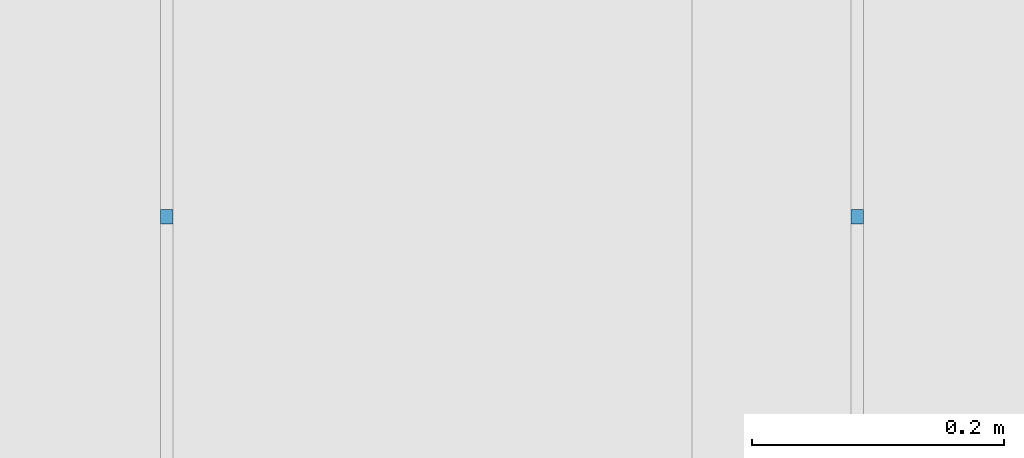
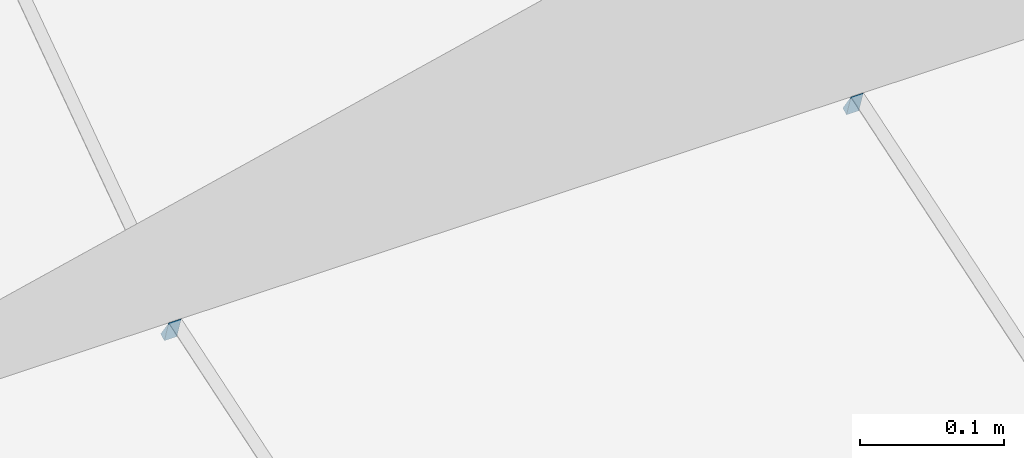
# One storey, part 377 of 583: 2 slabs.
"""IFC2X3 building model written with IfcOpenShell, lengths in metres."""

from ifc_helpers import new_model, entity, si_unit, converted_unit, derived_unit, money_unit, direction, frame, origin_with_axes, place, context, subcontext, project, spatial, faceted_brep, material, type_object, element, save


model = new_model("IFC2X3")

# Units and contexts
model_context = context("Model", 3, precision=1e-05, world=origin_with_axes(), true_north=direction((0.0, 1.0)))
body_context = subcontext(model_context, "Body", "Model", "MODEL_VIEW", scale=1.0)
ifc_project = project(units=[si_unit("LENGTHUNIT", "METRE"), si_unit("AREAUNIT", "SQUARE_METRE"), si_unit("VOLUMEUNIT", "CUBIC_METRE"), si_unit("ABSORBEDDOSEUNIT", "GRAY"), si_unit("AMOUNTOFSUBSTANCEUNIT", "MOLE"), si_unit("DOSEEQUIVALENTUNIT", "SIEVERT"), si_unit("ELECTRICCAPACITANCEUNIT", "FARAD"), si_unit("ELECTRICCHARGEUNIT", "COULOMB"), si_unit("ELECTRICCONDUCTANCEUNIT", "SIEMENS"), si_unit("ELECTRICCURRENTUNIT", "AMPERE"), si_unit("ELECTRICRESISTANCEUNIT", "OHM"), si_unit("ELECTRICVOLTAGEUNIT", "VOLT"), si_unit("ENERGYUNIT", "JOULE"), si_unit("FORCEUNIT", "NEWTON"), si_unit("FREQUENCYUNIT", "HERTZ"), si_unit("ILLUMINANCEUNIT", "LUX"), si_unit("INDUCTANCEUNIT", "HENRY"), si_unit("LUMINOUSFLUXUNIT", "LUMEN"), si_unit("LUMINOUSINTENSITYUNIT", "CANDELA"), si_unit("MAGNETICFLUXDENSITYUNIT", "TESLA"), si_unit("MAGNETICFLUXUNIT", "WEBER"), si_unit("MASSUNIT", "GRAM"), converted_unit("PLANEANGLEUNIT", "degree", entity("IfcReal", 0.0174532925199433), si_unit("PLANEANGLEUNIT", "RADIAN"), dimensions=[0, 0, 0, 0, 0, 0, 0]), si_unit("POWERUNIT", "WATT"), si_unit("PRESSUREUNIT", "PASCAL"), si_unit("RADIOACTIVITYUNIT", "BECQUEREL"), si_unit("SOLIDANGLEUNIT", "STERADIAN"), si_unit("THERMODYNAMICTEMPERATUREUNIT", "KELVIN"), si_unit("TIMEUNIT", "SECOND"), derived_unit("ACCELERATIONUNIT", [(si_unit("LENGTHUNIT", "METRE"), 1), (si_unit("TIMEUNIT", "SECOND"), -2)]), derived_unit("ANGULARVELOCITYUNIT", [(converted_unit("PLANEANGLEUNIT", "degree", entity("IfcReal", 0.0174532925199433), si_unit("PLANEANGLEUNIT", "RADIAN"), dimensions=[0, 0, 0, 0, 0, 0, 0]), 1), (si_unit("TIMEUNIT", "SECOND"), -1)]), derived_unit("CURVATUREUNIT", [(converted_unit("PLANEANGLEUNIT", "degree", entity("IfcReal", 0.0174532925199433), si_unit("PLANEANGLEUNIT", "RADIAN"), dimensions=[0, 0, 0, 0, 0, 0, 0]), 1), (si_unit("LENGTHUNIT", "METRE"), -1)]), derived_unit("DYNAMICVISCOSITYUNIT", [(si_unit("PRESSUREUNIT", "PASCAL"), 1), (si_unit("TIMEUNIT", "SECOND"), 1)]), derived_unit("HEATFLUXDENSITYUNIT", [(si_unit("POWERUNIT", "WATT"), 1), (si_unit("LENGTHUNIT", "METRE"), -2)]), derived_unit("HEATINGVALUEUNIT", [(si_unit("ENERGYUNIT", "JOULE"), 1), (si_unit("MASSUNIT", "GRAM"), -1)]), derived_unit("INTEGERCOUNTRATEUNIT", [(si_unit("TIMEUNIT", "SECOND"), -1)]), derived_unit("IONCONCENTRATIONUNIT", [(si_unit("MASSUNIT", "GRAM"), 1), (si_unit("VOLUMEUNIT", "CUBIC_METRE"), -1)]), derived_unit("ISOTHERMALMOISTURECAPACITYUNIT", [(si_unit("VOLUMEUNIT", "CUBIC_METRE"), 1), (si_unit("MASSUNIT", "GRAM"), -1)]), derived_unit("KINEMATICVISCOSITYUNIT", [(si_unit("AREAUNIT", "SQUARE_METRE"), 1), (si_unit("TIMEUNIT", "SECOND"), -1)]), derived_unit("LINEARFORCEUNIT", [(si_unit("FORCEUNIT", "NEWTON"), 1), (si_unit("LENGTHUNIT", "METRE"), -1)]), derived_unit("LINEARMOMENTUNIT", [(si_unit("FORCEUNIT", "NEWTON"), 1), (si_unit("LENGTHUNIT", "METRE"), -1)]), derived_unit("LINEARSTIFFNESSUNIT", [(si_unit("FORCEUNIT", "NEWTON"), 1), (si_unit("LENGTHUNIT", "METRE"), -1)]), derived_unit("LINEARVELOCITYUNIT", [(si_unit("LENGTHUNIT", "METRE"), 1), (si_unit("TIMEUNIT", "SECOND"), -1)]), derived_unit("LUMINOUSINTENSITYDISTRIBUTIONUNIT", [(si_unit("LUMINOUSINTENSITYUNIT", "CANDELA"), 1), (si_unit("LUMINOUSFLUXUNIT", "LUMEN"), -1)]), derived_unit("MASSDENSITYUNIT", [(si_unit("MASSUNIT", "GRAM"), 1), (si_unit("VOLUMEUNIT", "CUBIC_METRE"), -1)]), derived_unit("MASSFLOWRATEUNIT", [(si_unit("MASSUNIT", "GRAM"), 1), (si_unit("TIMEUNIT", "SECOND"), -1)]), derived_unit("MASSPERLENGTHUNIT", [(si_unit("MASSUNIT", "GRAM"), 1), (si_unit("LENGTHUNIT", "METRE"), -1)]), derived_unit("MODULUSOFELASTICITYUNIT", [(si_unit("FORCEUNIT", "NEWTON"), 1), (si_unit("AREAUNIT", "SQUARE_METRE"), -1)]), derived_unit("MODULUSOFLINEARSUBGRADEREACTIONUNIT", [(si_unit("FORCEUNIT", "NEWTON"), 1), (si_unit("LENGTHUNIT", "METRE"), -2)]), derived_unit("MODULUSOFROTATIONALSUBGRADEREACTIONUNIT", [(si_unit("FORCEUNIT", "NEWTON"), 1), (si_unit("LENGTHUNIT", "METRE"), 1)]), derived_unit("MODULUSOFSUBGRADEREACTIONUNIT", [(si_unit("FORCEUNIT", "NEWTON"), 1), (si_unit("VOLUMEUNIT", "CUBIC_METRE"), -1)]), derived_unit("MOISTUREDIFFUSIVITYUNIT", [(si_unit("VOLUMEUNIT", "CUBIC_METRE"), 1), (si_unit("TIMEUNIT", "SECOND"), -1)]), derived_unit("MOLECULARWEIGHTUNIT", [(si_unit("MASSUNIT", "GRAM"), 1), (si_unit("AMOUNTOFSUBSTANCEUNIT", "MOLE"), -1)]), derived_unit("PLANARFORCEUNIT", [(si_unit("FORCEUNIT", "NEWTON"), 1), (si_unit("LENGTHUNIT", "METRE"), -2)]), derived_unit("ROTATIONALFREQUENCYUNIT", [(si_unit("TIMEUNIT", "SECOND"), -1)]), derived_unit("ROTATIONALMASSUNIT", [(si_unit("MASSUNIT", "GRAM"), 1), (si_unit("LENGTHUNIT", "METRE"), 2)]), derived_unit("ROTATIONALSTIFFNESSUNIT", [(si_unit("FORCEUNIT", "NEWTON"), 1), (si_unit("LENGTHUNIT", "METRE"), 1), (converted_unit("PLANEANGLEUNIT", "degree", entity("IfcReal", 0.0174532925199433), si_unit("PLANEANGLEUNIT", "RADIAN"), dimensions=[0, 0, 0, 0, 0, 0, 0]), -1)]), derived_unit("SECTIONAREAINTEGRALUNIT", [(si_unit("LENGTHUNIT", "METRE"), 5)]), derived_unit("SECTIONMODULUSUNIT", [(si_unit("LENGTHUNIT", "METRE"), 3)]), derived_unit("SHEARMODULUSUNIT", [(si_unit("FORCEUNIT", "NEWTON"), 1), (si_unit("AREAUNIT", "SQUARE_METRE"), -1)]), derived_unit("SOUNDPOWERUNIT", [(si_unit("ENERGYUNIT", "JOULE"), 1), (si_unit("TIMEUNIT", "SECOND"), -1)]), derived_unit("SPECIFICHEATCAPACITYUNIT", [(si_unit("FORCEUNIT", "NEWTON"), 1), (si_unit("MASSUNIT", "GRAM"), -1), (si_unit("THERMODYNAMICTEMPERATUREUNIT", "KELVIN"), -1)]), derived_unit("TEMPERATUREGRADIENTUNIT", [(si_unit("THERMODYNAMICTEMPERATUREUNIT", "KELVIN"), 1), (si_unit("LENGTHUNIT", "METRE"), -1)]), derived_unit("THERMALADMITTANCEUNIT", [(si_unit("POWERUNIT", "WATT"), 1), (si_unit("AREAUNIT", "SQUARE_METRE"), -1), (si_unit("THERMODYNAMICTEMPERATUREUNIT", "KELVIN"), -1)]), derived_unit("THERMALCONDUCTANCEUNIT", [(si_unit("POWERUNIT", "WATT"), 1), (si_unit("LENGTHUNIT", "METRE"), -1), (si_unit("THERMODYNAMICTEMPERATUREUNIT", "KELVIN"), -1)]), derived_unit("THERMALEXPANSIONCOEFFICIENTUNIT", [(si_unit("THERMODYNAMICTEMPERATUREUNIT", "KELVIN"), -1)]), derived_unit("THERMALRESISTANCEUNIT", [(si_unit("AREAUNIT", "SQUARE_METRE"), 1), (si_unit("POWERUNIT", "WATT"), -1)]), derived_unit("THERMALTRANSMITTANCEUNIT", [(si_unit("POWERUNIT", "WATT"), 1), (si_unit("AREAUNIT", "SQUARE_METRE"), -1), (si_unit("THERMODYNAMICTEMPERATUREUNIT", "KELVIN"), -1)]), derived_unit("TORQUEUNIT", [(si_unit("FORCEUNIT", "NEWTON"), 1), (si_unit("LENGTHUNIT", "METRE"), 1)]), derived_unit("VAPORPERMEABILITYUNIT", [(si_unit("MASSUNIT", "GRAM"), 1), (si_unit("TIMEUNIT", "SECOND"), -1)]), derived_unit("VOLUMETRICFLOWRATEUNIT", [(si_unit("VOLUMEUNIT", "CUBIC_METRE"), 1), (si_unit("TIMEUNIT", "SECOND"), -1)]), derived_unit("WARPINGCONSTANTUNIT", [(si_unit("LENGTHUNIT", "METRE"), 6)]), derived_unit("WARPINGMOMENTUNIT", [(si_unit("FORCEUNIT", "NEWTON"), 1), (si_unit("LENGTHUNIT", "METRE"), 2)]), money_unit("GBP")], contexts=[model_context])

# Site, building, storey
site_placement = place(None, origin_with_axes())
site = spatial("IfcSite", under=ifc_project, at=site_placement, Name="Site", CompositionType="ELEMENT")
building_placement = place(site_placement, origin_with_axes())
building = spatial("IfcBuilding", under=site, at=building_placement, Name="Building01", CompositionType="ELEMENT")
storey_placement = place(building_placement, frame((0.0, 0.0, 20.78), z_axis=(0.0, 0.0, 1.0), x_axis=(1.0, 0.0, 0.0)))
storey = spatial("IfcBuildingStorey", under=building, at=storey_placement, Name="RL", CompositionType="ELEMENT", Elevation=20.78)

# Slabs
ifc_material = material(Name="A_BSUK_Roofs")
slab_type = type_object("IfcSlabType", Name="A-FloorsSlabs A_BSUK_Slabs", PredefinedType="FLOOR")
for number, where, z_axis, x_axis, name in (
    (1, (9.085953, 18.791933, -19.462123), (0.0, 1.0, 0.0), (-1.0, 0.0, 0.0), "A-FloorsSlabs A_BSUK_Slabs"),
    (2, (9.633453, 18.791933, -19.462123), (0.0, 1.0, 0.0), (-1.0, 0.0, 0.0), "A-FloorsSlabs A_BSUK_Slabs"),
):
    element("IfcSlab", number, at=place(storey_placement, frame(where, z_axis=z_axis, x_axis=x_axis)), inside=storey, type_object=slab_type, material=ifc_material, Name=name, ObjectType="A-FloorsSlabs A_BSUK_Slabs", context=body_context, shape_type="Brep", body=[
        faceted_brep([(0.0, -0.002638, -0.005291), (0.01, -0.002638, -0.005291), (0.01, 0.0, 0.0), (0.0, 0.0, 0.0), (0.0, 0.016383, -0.011472), (0.01, 0.016383, -0.011472)], [[[0, 1, 2, 3]], [[4, 5, 1, 0]], [[3, 2, 5, 4]], [[1, 5, 2]], [[3, 4, 0]]]),
    ])

save(model, "model.ifc")
